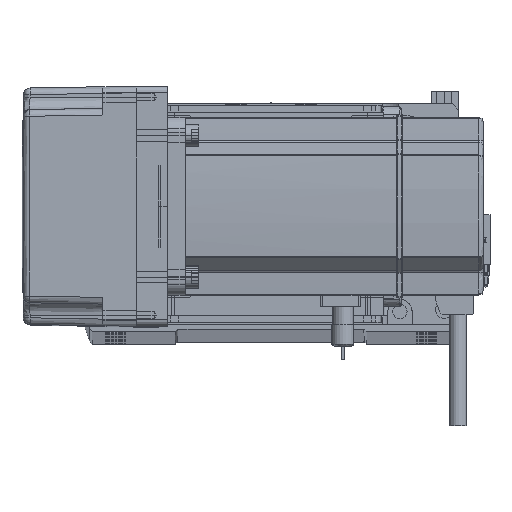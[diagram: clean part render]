
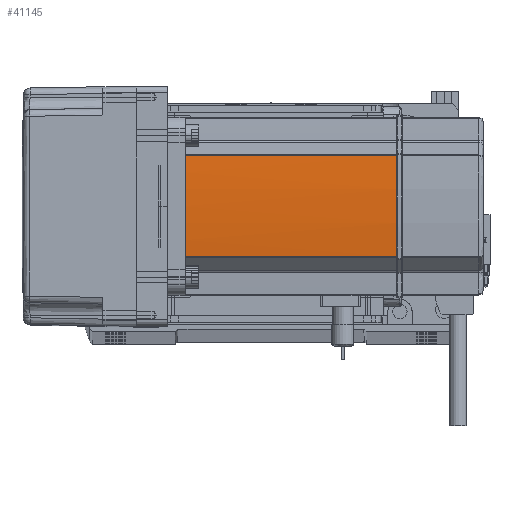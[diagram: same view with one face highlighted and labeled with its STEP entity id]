
A CAD part, top view. The second image highlights one B-rep face of the part: STEP entity #41145.
In plain terms, the highlighted cylindrical face has radius 270 mm (diameter 540 mm), a partial arc.
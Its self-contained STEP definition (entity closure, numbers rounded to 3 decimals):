
#3727 = CARTESIAN_POINT ( 'NONE',  ( 40., -0.127, 134. ) ) ;
#5473 = DIRECTION ( 'NONE',  ( 0., 0., -1. ) ) ;
#6098 = AXIS2_PLACEMENT_3D ( 'NONE', #20617, #5473, #56543 ) ;
#6648 = CIRCLE ( 'NONE', #60709, 270. ) ;
#7065 = ORIENTED_EDGE ( 'NONE', *, *, #9427, .F. ) ;
#8322 = EDGE_CURVE ( 'NONE', #64359, #46134, #8391, .T. ) ;
#8391 = B_SPLINE_CURVE_WITH_KNOTS ( 'NONE', 3,
 ( #3727, #40505, #65557, #8951 ),
 .UNSPECIFIED., .F., .F.,
 ( 4, 4 ),
 ( 0., 1. ),
 .UNSPECIFIED. ) ;
#8902 = CARTESIAN_POINT ( 'NONE',  ( -230., 0., 58. ) ) ;
#8951 = CARTESIAN_POINT ( 'NONE',  ( 40., 0.127, 134. ) ) ;
#9427 = EDGE_CURVE ( 'NONE', #40723, #53898, #59914, .T. ) ;
#9625 = ORIENTED_EDGE ( 'NONE', *, *, #53531, .T. ) ;
#13526 = CARTESIAN_POINT ( 'NONE',  ( -230., 0., 39. ) ) ;
#15045 = VERTEX_POINT ( 'NONE', #55419 ) ;
#15062 = CARTESIAN_POINT ( 'NONE',  ( -230., 0., 134. ) ) ;
#17457 = VERTEX_POINT ( 'NONE', #38534 ) ;
#18127 = LINE ( 'NONE', #65003, #22953 ) ;
#18574 = DIRECTION ( 'NONE',  ( 0., 0., -1. ) ) ;
#19970 = CARTESIAN_POINT ( 'NONE',  ( 40., -0.127, 134. ) ) ;
#20155 = CIRCLE ( 'NONE', #6098, 270. ) ;
#20449 = DIRECTION ( 'NONE',  ( -1., 0., 0. ) ) ;
#20617 = CARTESIAN_POINT ( 'NONE',  ( -230., 0., 134. ) ) ;
#22953 = VECTOR ( 'NONE', #18574, 1000. ) ;
#24807 = DIRECTION ( 'NONE',  ( 0., 0., -1. ) ) ;
#25460 = FACE_OUTER_BOUND ( 'NONE', #31179, .T. ) ;
#25888 = ORIENTED_EDGE ( 'NONE', *, *, #8322, .F. ) ;
#25922 = AXIS2_PLACEMENT_3D ( 'NONE', #13526, #24807, #29329 ) ;
#27285 = ORIENTED_EDGE ( 'NONE', *, *, #35897, .T. ) ;
#28908 = LINE ( 'NONE', #61156, #54599 ) ;
#29329 = DIRECTION ( 'NONE',  ( -1., 0., 0. ) ) ;
#30587 = CARTESIAN_POINT ( 'NONE',  ( 40., 0.127, 134. ) ) ;
#31179 = EDGE_LOOP ( 'NONE', ( #39105, #7065, #35062, #27285, #25888, #9625 ) ) ;
#35062 = ORIENTED_EDGE ( 'NONE', *, *, #38567, .T. ) ;
#35077 = DIRECTION ( 'NONE',  ( 0., 0., -1. ) ) ;
#35897 = EDGE_CURVE ( 'NONE', #17457, #46134, #6648, .T. ) ;
#38534 = CARTESIAN_POINT ( 'NONE',  ( 39.042, 22.724, 134. ) ) ;
#38567 = EDGE_CURVE ( 'NONE', #40723, #17457, #28908, .T. ) ;
#39105 = ORIENTED_EDGE ( 'NONE', *, *, #46420, .T. ) ;
#40505 = CARTESIAN_POINT ( 'NONE',  ( 40., -0.042, 134. ) ) ;
#40723 = VERTEX_POINT ( 'NONE', #60275 ) ;
#41145 = ADVANCED_FACE ( 'NONE', ( #25460 ), #52776, .T. ) ;
#45775 = DIRECTION ( 'NONE',  ( 0., 0., 1. ) ) ;
#46134 = VERTEX_POINT ( 'NONE', #30587 ) ;
#46420 = EDGE_CURVE ( 'NONE', #15045, #53898, #18127, .T. ) ;
#51242 = DIRECTION ( 'NONE',  ( 0., 0., -1. ) ) ;
#52776 = CYLINDRICAL_SURFACE ( 'NONE', #66635, 270. ) ;
#53531 = EDGE_CURVE ( 'NONE', #64359, #15045, #20155, .T. ) ;
#53898 = VERTEX_POINT ( 'NONE', #56009 ) ;
#54599 = VECTOR ( 'NONE', #45775, 1000. ) ;
#55419 = CARTESIAN_POINT ( 'NONE',  ( 39.042, -22.724, 134. ) ) ;
#56009 = CARTESIAN_POINT ( 'NONE',  ( 39.042, -22.724, 39. ) ) ;
#56543 = DIRECTION ( 'NONE',  ( -1., 0., 0. ) ) ;
#59914 = CIRCLE ( 'NONE', #25922, 270. ) ;
#60275 = CARTESIAN_POINT ( 'NONE',  ( 39.042, 22.724, 39. ) ) ;
#60345 = DIRECTION ( 'NONE',  ( -1., 0., 0. ) ) ;
#60709 = AXIS2_PLACEMENT_3D ( 'NONE', #15062, #51242, #20449 ) ;
#61156 = CARTESIAN_POINT ( 'NONE',  ( 39.042, 22.724, 58. ) ) ;
#64359 = VERTEX_POINT ( 'NONE', #19970 ) ;
#65003 = CARTESIAN_POINT ( 'NONE',  ( 39.042, -22.724, 58. ) ) ;
#65557 = CARTESIAN_POINT ( 'NONE',  ( 40., 0.042, 134. ) ) ;
#66635 = AXIS2_PLACEMENT_3D ( 'NONE', #8902, #35077, #60345 ) ;
